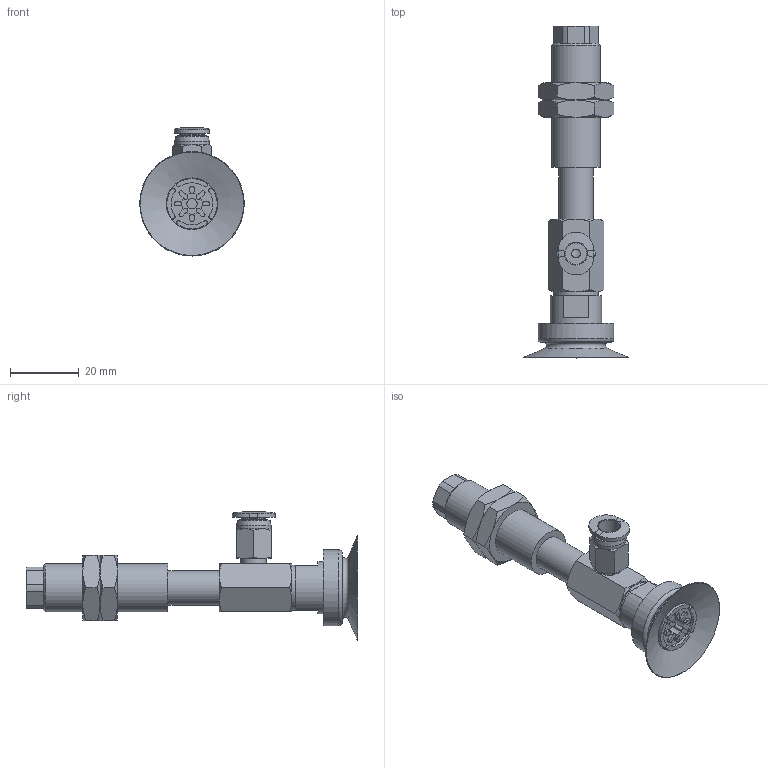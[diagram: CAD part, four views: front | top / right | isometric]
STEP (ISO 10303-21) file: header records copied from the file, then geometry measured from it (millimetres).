
FILE_DESCRIPTION(('STEP AP203'),'1');
FILE_NAME('-O.stp','2025-02-28T02:37:08',(' '),(' '),'Spatial InterOp 3D',' ',' ');
FILE_SCHEMA(('CONFIG_CONTROL_DESIGN'));
Length unit declared in the file: millimetre
Products named in the file (7): BNABPAYS-30-15-※-O; NAPAYS-30B-15--M; NAPAYS-30B-15--F; Nut-25-S; CONNECTOR-30B-15-PA; PC-C_06-M5; BPAG-30-※
Assembly tree (7 placements, depth 2):
  BNABPAYS-30-15-※-O
    NAPAYS-30B-15--M
    NAPAYS-30B-15--F
    Nut-25-S  x2
    CONNECTOR-30B-15-PA
    PC-C_06-M5
    BPAG-30-※
Bounding box: 30.3 x 96.2 x 37.13 mm (x, y, z)
Volume: 16134.1 mm3; surface area: 13027.5 mm2
Topology: 6 solids, 9 shells, 249 faces, 556 edges, 347 vertices
Faces by surface type: plane 104, cone 67, cylinder 67, bspline 4, torus 4, revolution 3
Full cylindrical faces by diameter (mm): 3 x2, 4 x2, 4.134 x2, 4.6 x1, 4.917 x1, 5 x2, 6 x1, 7 x1, 7.4 x1, 8.2 x1, 10 x3, 12.917 x2, 13 x1, 14 x1, 15 x1, 22 x1
Entity records: 6944 total; most frequent: CARTESIAN_POINT 1752, DIRECTION 1037, ORIENTED_EDGE 918, EDGE_CURVE 461, AXIS2_PLACEMENT_3D 428, VERTEX_POINT 315, EDGE_LOOP 304, CIRCLE 202
